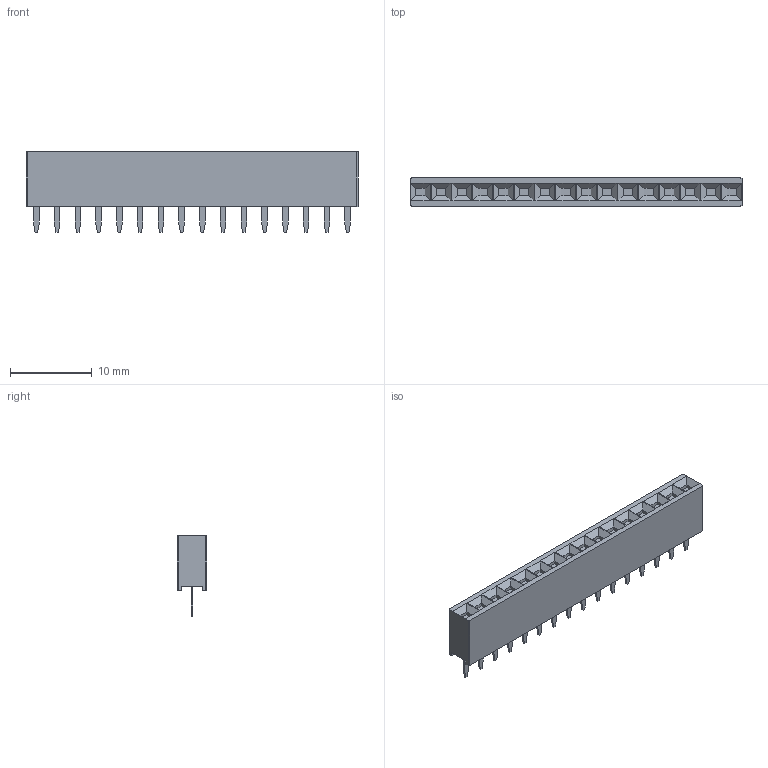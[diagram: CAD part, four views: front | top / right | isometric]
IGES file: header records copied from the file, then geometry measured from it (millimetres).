
Start section:  PTC IGES file: c-1-146138-4-l-3d.igs
Global section: file name: c-1-146138-4-l-3d.igs; native system: Pro/ENGINEER by Parametric Technology Corporation; preprocessor: 2005450; author: workeradm; organization: Unknown; date: 080331.110956; units: millimetre
Bounding box: 40.64 x 3.56 x 9.91 mm (x, y, z)
Surface area: 1075.5 mm2 (no closed solid volume)
Topology: 0 solids, 0 shells, 274 faces, 1312 edges, 1312 vertices
Faces by surface type: bspline 274
